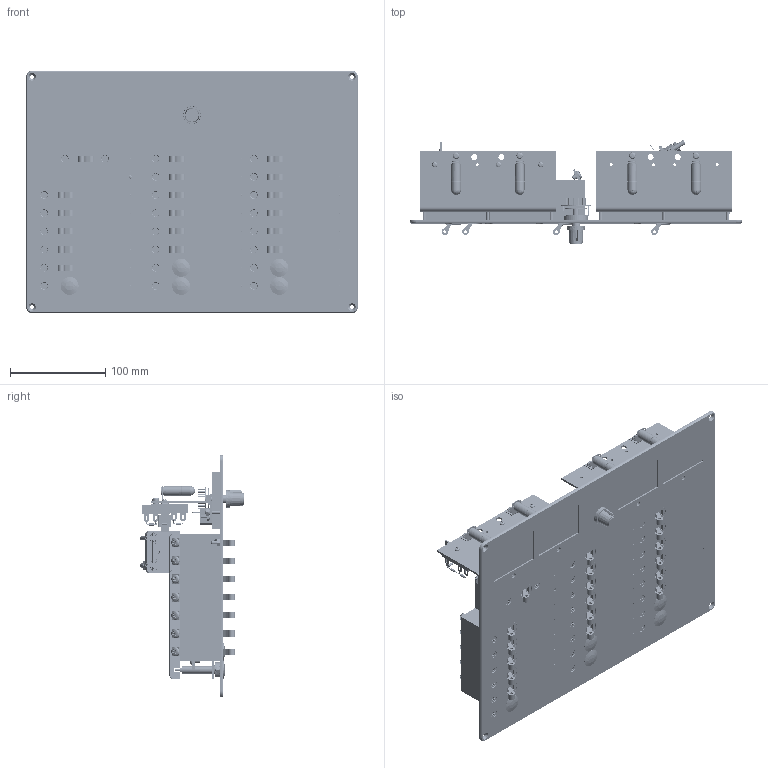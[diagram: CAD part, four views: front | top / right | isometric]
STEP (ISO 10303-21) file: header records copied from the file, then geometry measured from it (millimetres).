
FILE_DESCRIPTION((''),'2;1');
FILE_NAME('12171-0GX_3D.stp','2011-05-12T11:39:17',(''),(''),'Mechanical Desktop 2008','Mechanical Desktop 2008',', , ');
FILE_SCHEMA(('CONFIG_CONTROL_DESIGN'));
Length unit declared in the file: inch
Products named in the file (111): 12171-0GX_3D; 12170-0FX_3D; 12170-0FX_3DA; 573-0502-5_3DA; 573-0502-5_3D; 573-9161-5_3D; 573-9161-5_3DA; 573-1500-5_3DA; 573-1500-5_3D; 12174-0C1_3DA; 12174-0C1_3D; 742-0601-2_3DA; 742-0601-2_3D; 735-0632-2_3D; 735-0632-2_3DA; 573-0301-5_3D; 573-0301-5_3DA; 573-0002-0_3DA; 573-0002-0_3D; 573-0001-0_3DA; 573-0001-0_3D; 740-0601-2_3D; 740-0601-2_3DA; 754-0608-1_3DA; 754-0608-1_3D; 754-0608-2_3D; 754-0608-2_3DA; 12300-6N1_3D; 12300-6N1_3DA; 12300-5N1_3DA; 12300-5N1_3D; 718-0605-5_3DA; 718-0605-5_3D; 718-0805-2_3D; 718-0805-2_3DA; 638-0030-0_3DA; 638-0030-0_3D; 720-0605-2_3D; 720-0605-2_3DA; 579-1892-0_3D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
Assembly tree (329 placements, depth 3):
  12171-0GX_3D
    12170-0FX_3D
      12170-0FX_3DA
    573-0502-5_3DA
      573-0502-5_3D
    573-9161-5_3D
      573-9161-5_3DA
    573-1500-5_3DA
      573-1500-5_3D
    12174-0C1_3DA  x2
      12174-0C1_3D
    742-0601-2_3DA  x21
      742-0601-2_3D
    735-0632-2_3D  x22
      735-0632-2_3DA
    573-0301-5_3D
      573-0301-5_3DA
    573-0002-0_3DA  x8
      573-0002-0_3D
    573-0001-0_3DA  x8
      573-0001-0_3D
    740-0601-2_3D  x6
      740-0601-2_3DA
    754-0608-1_3DA  x6
      754-0608-1_3D
    754-0608-2_3D  x6
      754-0608-2_3DA
    12300-6N1_3D  x2
      12300-6N1_3DA
    12300-5N1_3DA
      12300-5N1_3D
    718-0605-5_3DA  x6
      718-0605-5_3D
    718-0805-2_3D  x11
      718-0805-2_3DA
    638-0030-0_3DA  x4
      638-0030-0_3D
    720-0605-2_3D  x4
      720-0605-2_3DA
    579-1892-0_3D  x4
      579-1892-0_3DA
    573-0003-0_3DA
      573-0003-0_3D
    718-0406-2_3DA  x3
      718-0406-2_3D
    742-0401-2_3DA  x3
      742-0401-2_3D
    735-0440-2_3DA  x3
      735-0440-2_3D
    605-0857-0_3DA
      605-0857-0_3D
    605-0829-0_3D
      605-0829-0_3DA
    539-4004-0_3D  x3
      539-4004-0_3DA
    539-4004-1_3DA
      539-4004-1_3D
    13225-0N1_3D  x2
      13225-0N1_3DA
    640-1026-0_3D
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Bounding box: 347.98 x 108.88 x 254 mm (x, y, z)
Volume: 1426120.4 mm3; surface area: 567396.1 mm2
Topology: 274 solids, 297 shells, 7209 faces, 17412 edges, 11096 vertices
Faces by surface type: plane 3083, cylinder 2593, cone 960, torus 244, sphere 228, bspline 101
Entity records: 71401 total; most frequent: CARTESIAN_POINT 13110, DIRECTION 12623, ORIENTED_EDGE 11000, EDGE_CURVE 5500, AXIS2_PLACEMENT_3D 4761, VERTEX_POINT 3528, VECTOR 3101, LINE 3101
